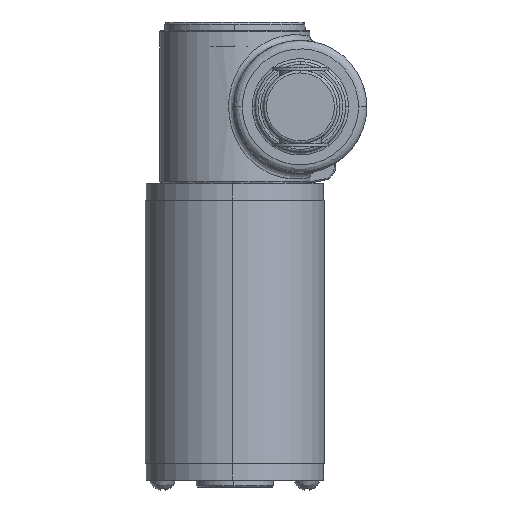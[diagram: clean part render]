
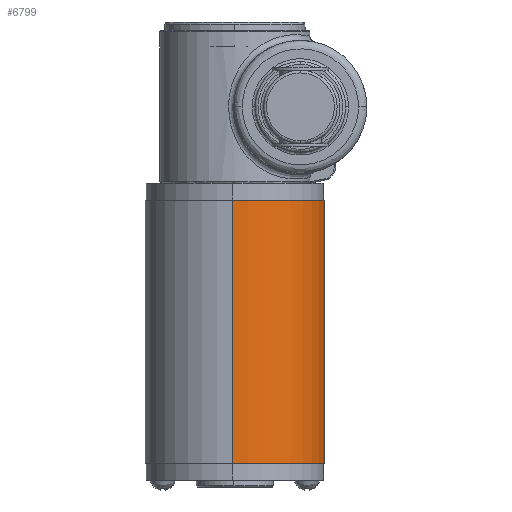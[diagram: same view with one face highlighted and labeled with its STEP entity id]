
A CAD part, front view. The second image highlights one B-rep face of the part: STEP entity #6799.
In plain terms, the highlighted cylindrical face has radius 31.75 mm (diameter 63.5 mm), a partial arc.
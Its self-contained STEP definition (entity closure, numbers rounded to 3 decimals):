
#2738 = CYLINDRICAL_SURFACE ( 'NONE', #2745, 31.75 ) ;
#2740 = FACE_OUTER_BOUND ( 'NONE', #8725, .T. ) ;
#2745 = AXIS2_PLACEMENT_3D ( 'NONE', #14031, #14032, #14033 ) ;
#2776 = VECTOR ( 'NONE', #14968, 1000. ) ;
#2779 = AXIS2_PLACEMENT_3D ( 'NONE', #14962, #14963, #14964 ) ;
#2781 = VECTOR ( 'NONE', #14959, 1000. ) ;
#2783 = AXIS2_PLACEMENT_3D ( 'NONE', #14953, #14960, #14961 ) ;
#6799 = ADVANCED_FACE ( 'NONE', ( #2740 ), #2738, .T. ) ;
#7996 = VERTEX_POINT ( 'NONE', #14205 ) ;
#8025 = VERTEX_POINT ( 'NONE', #14234 ) ;
#8323 = VERTEX_POINT ( 'NONE', #14360 ) ;
#8454 = VERTEX_POINT ( 'NONE', #14404 ) ;
#8725 = EDGE_LOOP ( 'NONE', ( #9980, #9985, #9983, #9988 ) ) ;
#9203 = EDGE_CURVE ( 'NONE', #7996, #8454, #14957, .T. ) ;
#9204 = EDGE_CURVE ( 'NONE', #8025, #8454, #13824, .T. ) ;
#9205 = EDGE_CURVE ( 'NONE', #7996, #8323, #13785, .T. ) ;
#9206 = EDGE_CURVE ( 'NONE', #8323, #8025, #14966, .T. ) ;
#9980 = ORIENTED_EDGE ( 'NONE', *, *, #9205, .T. ) ;
#9983 = ORIENTED_EDGE ( 'NONE', *, *, #9204, .T. ) ;
#9985 = ORIENTED_EDGE ( 'NONE', *, *, #9206, .T. ) ;
#9988 = ORIENTED_EDGE ( 'NONE', *, *, #9203, .F. ) ;
#13785 = CIRCLE ( 'NONE', #2779, 31.75 ) ;
#13824 = CIRCLE ( 'NONE', #2783, 31.75 ) ;
#14031 = CARTESIAN_POINT ( 'NONE',  ( -23.13, 65., -163.517 ) ) ;
#14032 = DIRECTION ( 'NONE',  ( 0., 0., -1. ) ) ;
#14033 = DIRECTION ( 'NONE',  ( 0.025, 1., 0. ) ) ;
#14205 = CARTESIAN_POINT ( 'NONE',  ( -22.335, 96.74, -33. ) ) ;
#14234 = CARTESIAN_POINT ( 'NONE',  ( -23.925, 33.26, -126. ) ) ;
#14360 = CARTESIAN_POINT ( 'NONE',  ( -23.925, 33.26, -33. ) ) ;
#14404 = CARTESIAN_POINT ( 'NONE',  ( -22.335, 96.74, -126. ) ) ;
#14953 = CARTESIAN_POINT ( 'NONE',  ( -23.13, 65., -126. ) ) ;
#14957 = LINE ( 'NONE', #14958, #2781 ) ;
#14958 = CARTESIAN_POINT ( 'NONE',  ( -22.335, 96.74, -163.517 ) ) ;
#14959 = DIRECTION ( 'NONE',  ( 0., 0., -1. ) ) ;
#14960 = DIRECTION ( 'NONE',  ( 0., 0., 1. ) ) ;
#14961 = DIRECTION ( 'NONE',  ( 0.025, 1., 0. ) ) ;
#14962 = CARTESIAN_POINT ( 'NONE',  ( -23.13, 65., -33. ) ) ;
#14963 = DIRECTION ( 'NONE',  ( 0., 0., -1. ) ) ;
#14964 = DIRECTION ( 'NONE',  ( 0.025, 1., 0. ) ) ;
#14966 = LINE ( 'NONE', #14967, #2776 ) ;
#14967 = CARTESIAN_POINT ( 'NONE',  ( -23.925, 33.26, -163.517 ) ) ;
#14968 = DIRECTION ( 'NONE',  ( 0., 0., -1. ) ) ;
